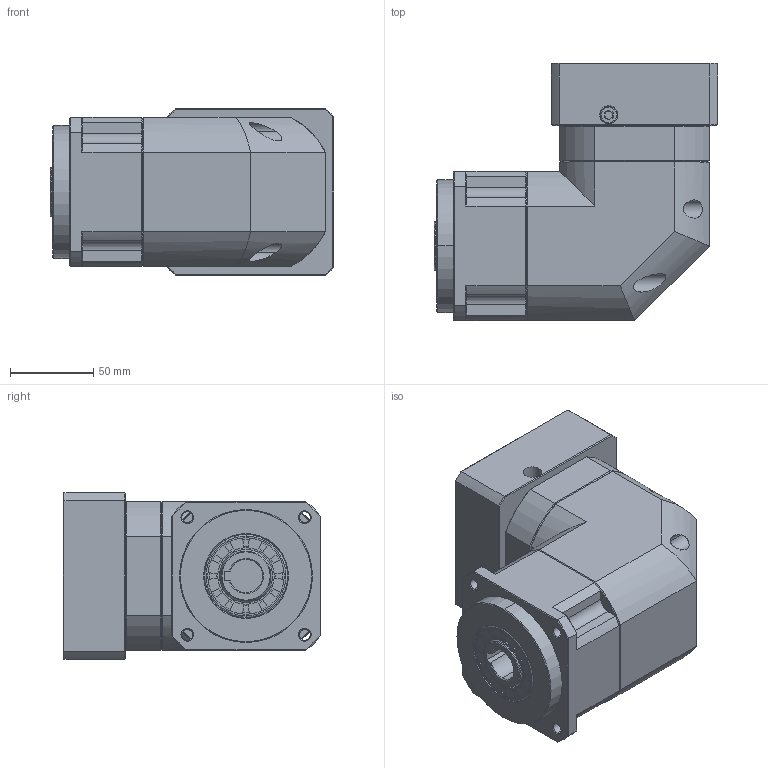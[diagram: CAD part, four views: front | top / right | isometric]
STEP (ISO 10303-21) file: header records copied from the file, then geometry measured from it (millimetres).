
FILE_DESCRIPTION (( 'STEP AP214' ), '1' );
FILE_NAME ('ZPBR090-K20-L1-P1-22-95-115-M8.step', '2024-06-07T18:39:38', ( 'Windows 蚚誧' ), ( 'Organization' ), 'SwSTEP 2.0', 'SolidWorks 2016', '' );
FILE_SCHEMA (( 'AUTOMOTIVE_DESIGN' ));
Length unit declared in the file: millimetre
Products named in the file (1): ZPBR090-K20-L1-P1-22-95-115-M8
Bounding box: 170.5 x 155 x 100 mm (x, y, z)
Surface area: 132130.3 mm2 (no closed solid volume)
Topology: 0 solids, 32 shells, 1795 faces, 4782 edges, 3075 vertices
Faces by surface type: plane 966, bspline 368, cone 234, cylinder 212, torus 15
Entity records: 84501 total; most frequent: CARTESIAN_POINT 38926, ORIENTED_EDGE 9544, DIRECTION 7410, EDGE_CURVE 4782, VECTOR 3208, LINE 3208, VERTEX_POINT 3075, AXIS2_PLACEMENT_3D 2101
